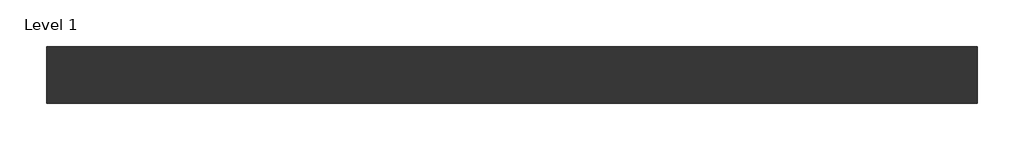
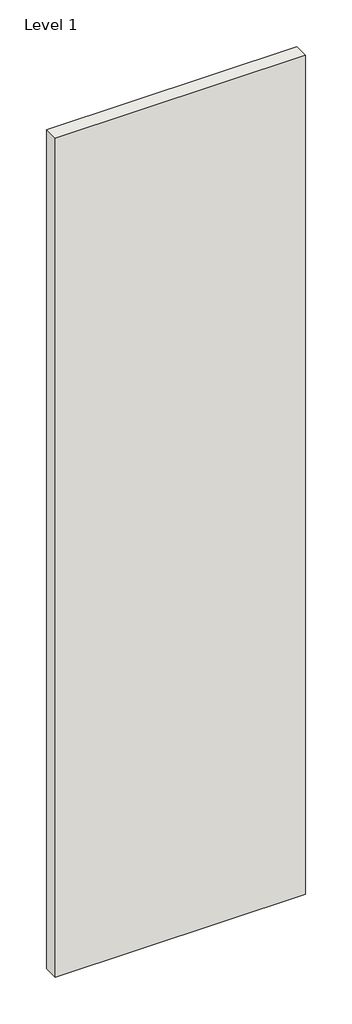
# One storey: 1 wall.
"""IFC4 building model written with IfcOpenShell, lengths in millimetres."""

from ifc_helpers import new_model, si_unit, origin, origin_with_axes, place, context, project, spatial, polyline, outline, extrude, element, save

model = new_model("IFC4")

# Units and contexts
model_context = context("Model", 3, world=origin())
ifc_project = project(units=[si_unit("LENGTHUNIT", "METRE", prefix="MILLI")], contexts=[model_context])

# Site, building, storey
site = spatial("IfcSite", under=ifc_project)
building = spatial("IfcBuilding", under=site)
storey = spatial("IfcBuildingStorey", under=building, Name="Level 1", Elevation=0.0)

# Wall
placement = place(None, origin())
element("IfcWall", 1, ObjectType="Trasdosado Simple – Placo® Habito® 73(48) HBT13 + BA13 + 48LM c/600", at=placement, inside=storey, context=model_context, shape_type="SweptSolid", body=[
    extrude(outline(polyline([(-28676.4711674, -88665.3970389), (-29876.4711674, -88665.3970389), (-29876.4711674, -88592.3970389), (-28676.4711674, -88592.3970389), (-28676.4711674, -88665.3970389)])), origin_with_axes(), (0.0, 0.0, 1.0), 4250.0),
])

save(model, "model.ifc")
